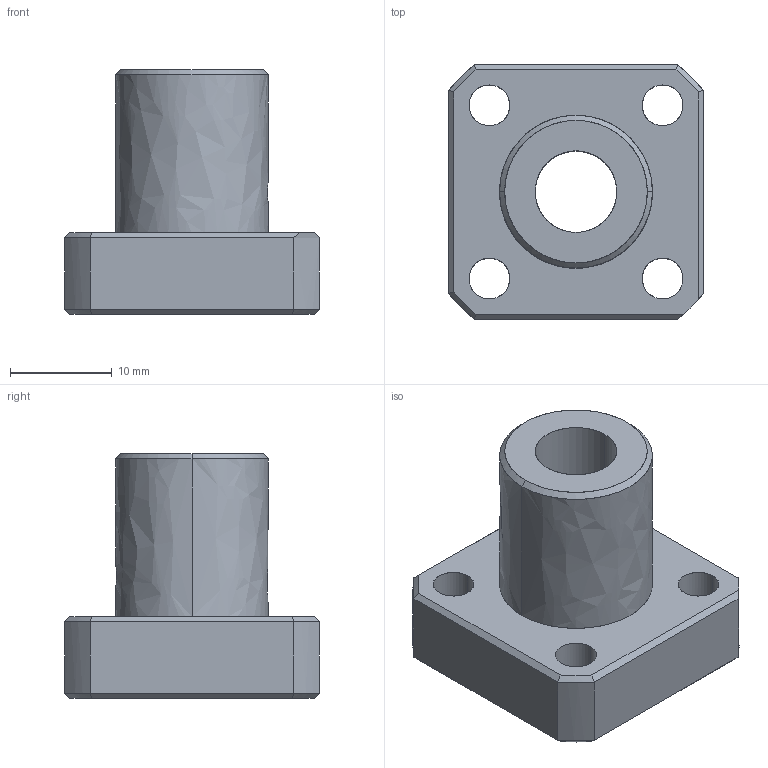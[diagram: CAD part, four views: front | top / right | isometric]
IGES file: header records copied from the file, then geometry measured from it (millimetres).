
Global section: file name: No Iges File Name specified; native system: AutoDesk Inventor R10; preprocessor: AutoDesk Inventor Iges Exporter R10; author: No Author specified; organization: No Organization specified; date: 20101214.154702; units: millimetre
Bounding box: 25 x 25 x 24 mm (x, y, z)
Surface area: 3481.3 mm2 (no closed solid volume)
Topology: 0 solids, 0 shells, 62 faces, 424 edges, 424 vertices
Faces by surface type: bspline 62
